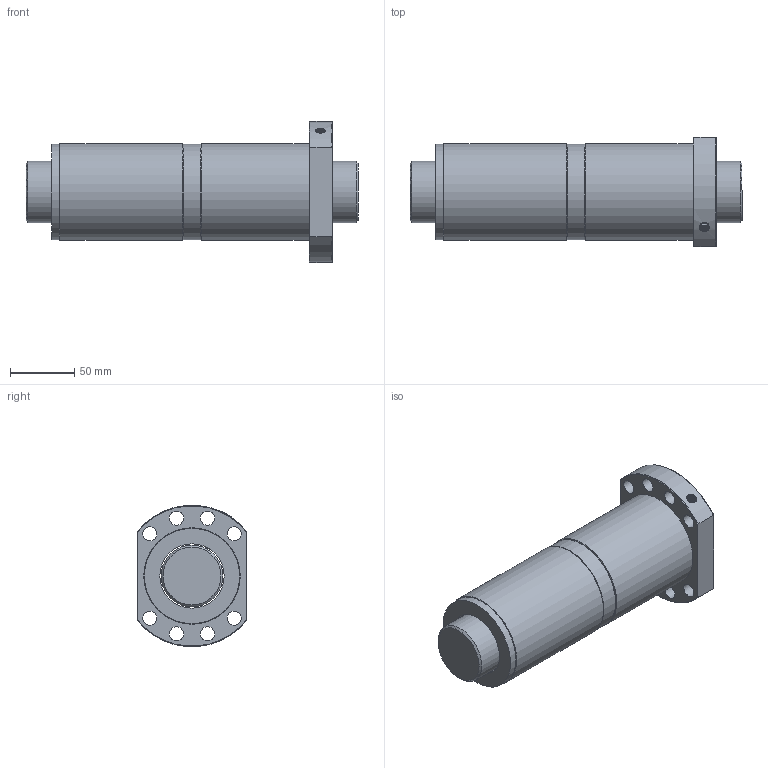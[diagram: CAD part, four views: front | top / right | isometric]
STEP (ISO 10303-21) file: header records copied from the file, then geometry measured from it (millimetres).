
FILE_DESCRIPTION(/* description */ ('Unknown','CAx-IF Rec.Pracs.---Representation and Presentation of Product Manufacturing Information (PMI)---4.0---2014-10-13','CAx-IF Rec.Pracs.---3D Tessellated Geometry---0.4---2014-09-14','2;1'),/* implementation_level */ '2;1');
FILE_NAME(/* name */ 'DFS05020',/* time_stamp */ '2020-12-08T12:01:37+08:00',/* author */ ('Unknown'),/* organization */ ('Unknown'),/* preprocessor_version */ 'ST-DEVELOPER v16.7',/* originating_system */ 'Solid Edge',/* authorisation */ 'Unknown');
FILE_SCHEMA (('AP242_MANAGED_MODEL_BASED_3D_ENGINEERING_MIM_LF { 1 0 10303 442 1 1 4 }'));
Length unit declared in the file: millimetre
Products named in the file (1): DFS05020
Bounding box: 258 x 85 x 109.65 mm (x, y, z)
Volume: 1054922.3 mm3; surface area: 146676 mm2
Topology: 2 solids, 2 shells, 45 faces, 102 edges, 65 vertices
Faces by surface type: cylinder 20, plane 11, torus 9, cone 3, bspline 2
Full cylindrical faces by diameter (mm): 4 x1, 6.917 x1, 11 x8, 48 x1, 50 x1, 74 x2, 75 x2
Entity records: 3068 total; most frequent: CARTESIAN_POINT 2059, DIRECTION 198, ORIENTED_EDGE 150, AXIS2_PLACEMENT_3D 96, EDGE_LOOP 93, FACE_BOUND 93, EDGE_CURVE 75, VERTEX_POINT 62
